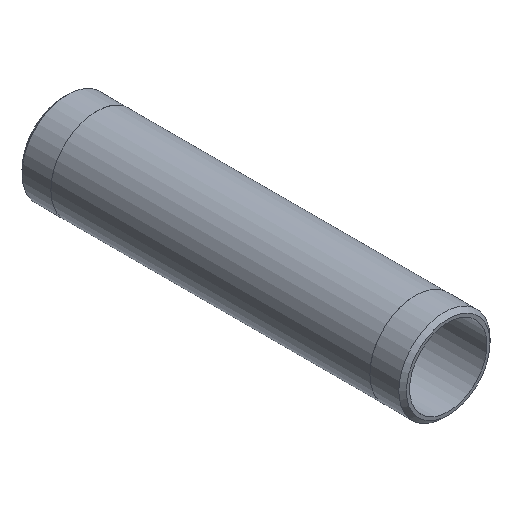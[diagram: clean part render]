
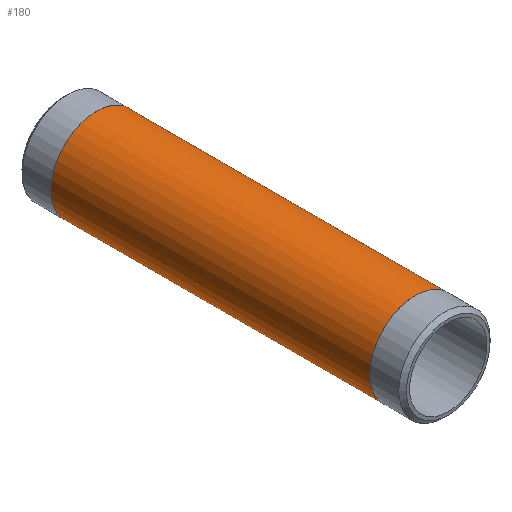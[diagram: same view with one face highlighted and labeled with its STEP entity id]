
A CAD part, isometric view. The second image highlights one B-rep face of the part: STEP entity #180.
In plain terms, the highlighted cylindrical face has radius 24.13 mm (diameter 48.26 mm), a full revolution.
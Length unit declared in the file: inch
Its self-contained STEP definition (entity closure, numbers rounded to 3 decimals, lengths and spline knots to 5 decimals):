
#25=CYLINDRICAL_SURFACE('',#220,0.95);
#34=FACE_OUTER_BOUND('',#47,.T.);
#47=EDGE_LOOP('',(#155,#156,#157,#158,#159,#160));
#55=LINE('',#338,#61);
#61=VECTOR('',#283,0.95);
#77=CIRCLE('',#218,0.95);
#78=CIRCLE('',#219,0.95);
#79=CIRCLE('',#221,0.95);
#80=CIRCLE('',#222,0.95);
#95=VERTEX_POINT('',#329);
#96=VERTEX_POINT('',#330);
#97=VERTEX_POINT('',#334);
#98=VERTEX_POINT('',#335);
#117=EDGE_CURVE('',#95,#96,#77,.T.);
#118=EDGE_CURVE('',#96,#95,#78,.T.);
#119=EDGE_CURVE('',#97,#98,#79,.T.);
#120=EDGE_CURVE('',#98,#97,#80,.T.);
#121=EDGE_CURVE('',#98,#96,#55,.T.);
#155=ORIENTED_EDGE('',*,*,#119,.F.);
#156=ORIENTED_EDGE('',*,*,#120,.F.);
#157=ORIENTED_EDGE('',*,*,#121,.T.);
#158=ORIENTED_EDGE('',*,*,#118,.T.);
#159=ORIENTED_EDGE('',*,*,#117,.T.);
#160=ORIENTED_EDGE('',*,*,#121,.F.);
#180=ADVANCED_FACE('',(#34),#25,.T.);
#218=AXIS2_PLACEMENT_3D('',#331,#273,#274);
#219=AXIS2_PLACEMENT_3D('',#332,#275,#276);
#220=AXIS2_PLACEMENT_3D('',#333,#277,#278);
#221=AXIS2_PLACEMENT_3D('',#336,#279,#280);
#222=AXIS2_PLACEMENT_3D('',#337,#281,#282);
#273=DIRECTION('center_axis',(0.,-1.,0.));
#274=DIRECTION('ref_axis',(1.,0.,0.));
#275=DIRECTION('center_axis',(0.,-1.,0.));
#276=DIRECTION('ref_axis',(1.,0.,0.));
#277=DIRECTION('center_axis',(0.,-1.,0.));
#278=DIRECTION('ref_axis',(0.,0.,-1.));
#279=DIRECTION('center_axis',(0.,-1.,0.));
#280=DIRECTION('ref_axis',(1.,0.,0.));
#281=DIRECTION('center_axis',(0.,-1.,0.));
#282=DIRECTION('ref_axis',(1.,0.,0.));
#283=DIRECTION('',(0.,1.,0.));
#329=CARTESIAN_POINT('',(0.,7.319,-0.95));
#330=CARTESIAN_POINT('',(0.,7.319,0.95));
#331=CARTESIAN_POINT('Origin',(0.,7.319,0.));
#332=CARTESIAN_POINT('Origin',(0.,7.319,0.));
#333=CARTESIAN_POINT('Origin',(0.,4.,0.));
#334=CARTESIAN_POINT('',(0.,0.681,-0.95));
#335=CARTESIAN_POINT('',(0.,0.681,0.95));
#336=CARTESIAN_POINT('Origin',(0.,0.681,0.));
#337=CARTESIAN_POINT('Origin',(0.,0.681,0.));
#338=CARTESIAN_POINT('',(0.,4.,0.95));
